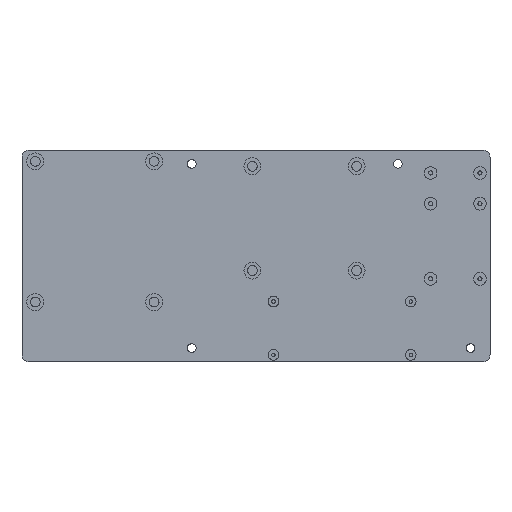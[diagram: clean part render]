
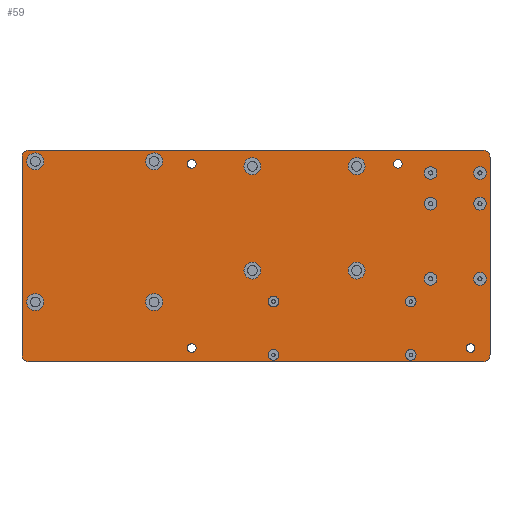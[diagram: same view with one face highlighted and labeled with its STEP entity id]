
A CAD part, top view. The second image highlights one B-rep face of the part: STEP entity #59.
In plain terms, the highlighted planar face has unit normal (0, 0, 1).
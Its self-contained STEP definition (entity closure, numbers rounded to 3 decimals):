
#21 = EDGE_CURVE('',#22,#24,#26,.T.);
#22 = VERTEX_POINT('',#23);
#23 = CARTESIAN_POINT('',(0.,3.,3.2));
#24 = VERTEX_POINT('',#25);
#25 = CARTESIAN_POINT('',(3.,0.,3.2));
#26 = CIRCLE('',#27,3.);
#27 = AXIS2_PLACEMENT_3D('',#28,#29,#30);
#28 = CARTESIAN_POINT('',(3.,3.,3.2));
#29 = DIRECTION('',(0.,0.,1.));
#30 = DIRECTION('',(1.,0.,-0.));
#59 = ADVANCED_FACE('',(#60,#120,#131,#142,#153,#164,#175,#186,#197,#208
    ,#219,#230,#241,#252,#263,#274,#285,#296,#307,#318,#329,#340,#351),
  #362,.T.);
#60 = FACE_BOUND('',#61,.T.);
#61 = EDGE_LOOP('',(#62,#63,#71,#80,#88,#97,#105,#114));
#62 = ORIENTED_EDGE('',*,*,#21,.T.);
#63 = ORIENTED_EDGE('',*,*,#64,.T.);
#64 = EDGE_CURVE('',#24,#65,#67,.T.);
#65 = VERTEX_POINT('',#66);
#66 = CARTESIAN_POINT('',(190.,0.,3.2));
#67 = LINE('',#68,#69);
#68 = CARTESIAN_POINT('',(3.,0.,3.2));
#69 = VECTOR('',#70,1.);
#70 = DIRECTION('',(1.,0.,-0.));
#71 = ORIENTED_EDGE('',*,*,#72,.T.);
#72 = EDGE_CURVE('',#65,#73,#75,.T.);
#73 = VERTEX_POINT('',#74);
#74 = CARTESIAN_POINT('',(193.,3.,3.2));
#75 = CIRCLE('',#76,3.);
#76 = AXIS2_PLACEMENT_3D('',#77,#78,#79);
#77 = CARTESIAN_POINT('',(190.,3.,3.2));
#78 = DIRECTION('',(0.,0.,1.));
#79 = DIRECTION('',(1.,0.,-0.));
#80 = ORIENTED_EDGE('',*,*,#81,.T.);
#81 = EDGE_CURVE('',#73,#82,#84,.T.);
#82 = VERTEX_POINT('',#83);
#83 = CARTESIAN_POINT('',(193.,84.4,3.2));
#84 = LINE('',#85,#86);
#85 = CARTESIAN_POINT('',(193.,3.,3.2));
#86 = VECTOR('',#87,1.);
#87 = DIRECTION('',(-0.,1.,0.));
#88 = ORIENTED_EDGE('',*,*,#89,.T.);
#89 = EDGE_CURVE('',#82,#90,#92,.T.);
#90 = VERTEX_POINT('',#91);
#91 = CARTESIAN_POINT('',(190.,87.4,3.2));
#92 = CIRCLE('',#93,3.);
#93 = AXIS2_PLACEMENT_3D('',#94,#95,#96);
#94 = CARTESIAN_POINT('',(190.,84.4,3.2));
#95 = DIRECTION('',(0.,0.,1.));
#96 = DIRECTION('',(1.,0.,-0.));
#97 = ORIENTED_EDGE('',*,*,#98,.F.);
#98 = EDGE_CURVE('',#99,#90,#101,.T.);
#99 = VERTEX_POINT('',#100);
#100 = CARTESIAN_POINT('',(3.,87.4,3.2));
#101 = LINE('',#102,#103);
#102 = CARTESIAN_POINT('',(3.,87.4,3.2));
#103 = VECTOR('',#104,1.);
#104 = DIRECTION('',(1.,0.,-0.));
#105 = ORIENTED_EDGE('',*,*,#106,.T.);
#106 = EDGE_CURVE('',#99,#107,#109,.T.);
#107 = VERTEX_POINT('',#108);
#108 = CARTESIAN_POINT('',(0.,84.4,3.2));
#109 = CIRCLE('',#110,3.);
#110 = AXIS2_PLACEMENT_3D('',#111,#112,#113);
#111 = CARTESIAN_POINT('',(3.,84.4,3.2));
#112 = DIRECTION('',(0.,0.,1.));
#113 = DIRECTION('',(1.,0.,-0.));
#114 = ORIENTED_EDGE('',*,*,#115,.F.);
#115 = EDGE_CURVE('',#22,#107,#116,.T.);
#116 = LINE('',#117,#118);
#117 = CARTESIAN_POINT('',(0.,3.,3.2));
#118 = VECTOR('',#119,1.);
#119 = DIRECTION('',(-0.,1.,0.));
#120 = FACE_BOUND('',#121,.T.);
#121 = EDGE_LOOP('',(#122));
#122 = ORIENTED_EDGE('',*,*,#123,.F.);
#123 = EDGE_CURVE('',#124,#124,#126,.T.);
#124 = VERTEX_POINT('',#125);
#125 = CARTESIAN_POINT('',(71.8,5.7,3.2));
#126 = CIRCLE('',#127,1.8);
#127 = AXIS2_PLACEMENT_3D('',#128,#129,#130);
#128 = CARTESIAN_POINT('',(70.,5.7,3.2));
#129 = DIRECTION('',(0.,0.,1.));
#130 = DIRECTION('',(1.,0.,-0.));
#131 = FACE_BOUND('',#132,.T.);
#132 = EDGE_LOOP('',(#133));
#133 = ORIENTED_EDGE('',*,*,#134,.F.);
#134 = EDGE_CURVE('',#135,#135,#137,.T.);
#135 = VERTEX_POINT('',#136);
#136 = CARTESIAN_POINT('',(9.,24.7,3.2));
#137 = CIRCLE('',#138,3.5);
#138 = AXIS2_PLACEMENT_3D('',#139,#140,#141);
#139 = CARTESIAN_POINT('',(5.5,24.7,3.2));
#140 = DIRECTION('',(0.,0.,1.));
#141 = DIRECTION('',(1.,0.,-0.));
#142 = FACE_BOUND('',#143,.T.);
#143 = EDGE_LOOP('',(#144));
#144 = ORIENTED_EDGE('',*,*,#145,.F.);
#145 = EDGE_CURVE('',#146,#146,#148,.T.);
#146 = VERTEX_POINT('',#147);
#147 = CARTESIAN_POINT('',(58.,24.7,3.2));
#148 = CIRCLE('',#149,3.5);
#149 = AXIS2_PLACEMENT_3D('',#150,#151,#152);
#150 = CARTESIAN_POINT('',(54.5,24.7,3.2));
#151 = DIRECTION('',(0.,0.,1.));
#152 = DIRECTION('',(1.,0.,-0.));
#153 = FACE_BOUND('',#154,.T.);
#154 = EDGE_LOOP('',(#155));
#155 = ORIENTED_EDGE('',*,*,#156,.F.);
#156 = EDGE_CURVE('',#157,#157,#159,.T.);
#157 = VERTEX_POINT('',#158);
#158 = CARTESIAN_POINT('',(98.5,37.7,3.2));
#159 = CIRCLE('',#160,3.5);
#160 = AXIS2_PLACEMENT_3D('',#161,#162,#163);
#161 = CARTESIAN_POINT('',(95.,37.7,3.2));
#162 = DIRECTION('',(0.,0.,1.));
#163 = DIRECTION('',(1.,0.,-0.));
#164 = FACE_BOUND('',#165,.T.);
#165 = EDGE_LOOP('',(#166));
#166 = ORIENTED_EDGE('',*,*,#167,.F.);
#167 = EDGE_CURVE('',#168,#168,#170,.T.);
#168 = VERTEX_POINT('',#169);
#169 = CARTESIAN_POINT('',(105.9,2.9,3.2));
#170 = CIRCLE('',#171,2.2);
#171 = AXIS2_PLACEMENT_3D('',#172,#173,#174);
#172 = CARTESIAN_POINT('',(103.7,2.9,3.2));
#173 = DIRECTION('',(0.,0.,1.));
#174 = DIRECTION('',(1.,0.,-0.));
#175 = FACE_BOUND('',#176,.T.);
#176 = EDGE_LOOP('',(#177));
#177 = ORIENTED_EDGE('',*,*,#178,.F.);
#178 = EDGE_CURVE('',#179,#179,#181,.T.);
#179 = VERTEX_POINT('',#180);
#180 = CARTESIAN_POINT('',(162.5,2.9,3.2));
#181 = CIRCLE('',#182,2.2);
#182 = AXIS2_PLACEMENT_3D('',#183,#184,#185);
#183 = CARTESIAN_POINT('',(160.3,2.9,3.2));
#184 = DIRECTION('',(0.,0.,1.));
#185 = DIRECTION('',(1.,0.,-0.));
#186 = FACE_BOUND('',#187,.T.);
#187 = EDGE_LOOP('',(#188));
#188 = ORIENTED_EDGE('',*,*,#189,.F.);
#189 = EDGE_CURVE('',#190,#190,#192,.T.);
#190 = VERTEX_POINT('',#191);
#191 = CARTESIAN_POINT('',(186.8,5.7,3.2));
#192 = CIRCLE('',#193,1.8);
#193 = AXIS2_PLACEMENT_3D('',#194,#195,#196);
#194 = CARTESIAN_POINT('',(185.,5.7,3.2));
#195 = DIRECTION('',(0.,0.,1.));
#196 = DIRECTION('',(1.,0.,-0.));
#197 = FACE_BOUND('',#198,.T.);
#198 = EDGE_LOOP('',(#199));
#199 = ORIENTED_EDGE('',*,*,#200,.F.);
#200 = EDGE_CURVE('',#201,#201,#203,.T.);
#201 = VERTEX_POINT('',#202);
#202 = CARTESIAN_POINT('',(105.9,24.9,3.2));
#203 = CIRCLE('',#204,2.2);
#204 = AXIS2_PLACEMENT_3D('',#205,#206,#207);
#205 = CARTESIAN_POINT('',(103.7,24.9,3.2));
#206 = DIRECTION('',(0.,0.,1.));
#207 = DIRECTION('',(1.,0.,-0.));
#208 = FACE_BOUND('',#209,.T.);
#209 = EDGE_LOOP('',(#210));
#210 = ORIENTED_EDGE('',*,*,#211,.F.);
#211 = EDGE_CURVE('',#212,#212,#214,.T.);
#212 = VERTEX_POINT('',#213);
#213 = CARTESIAN_POINT('',(141.5,37.7,3.2));
#214 = CIRCLE('',#215,3.5);
#215 = AXIS2_PLACEMENT_3D('',#216,#217,#218);
#216 = CARTESIAN_POINT('',(138.,37.7,3.2));
#217 = DIRECTION('',(0.,0.,1.));
#218 = DIRECTION('',(1.,0.,-0.));
#219 = FACE_BOUND('',#220,.T.);
#220 = EDGE_LOOP('',(#221));
#221 = ORIENTED_EDGE('',*,*,#222,.F.);
#222 = EDGE_CURVE('',#223,#223,#225,.T.);
#223 = VERTEX_POINT('',#224);
#224 = CARTESIAN_POINT('',(162.5,24.9,3.2));
#225 = CIRCLE('',#226,2.2);
#226 = AXIS2_PLACEMENT_3D('',#227,#228,#229);
#227 = CARTESIAN_POINT('',(160.3,24.9,3.2));
#228 = DIRECTION('',(0.,0.,1.));
#229 = DIRECTION('',(1.,0.,-0.));
#230 = FACE_BOUND('',#231,.T.);
#231 = EDGE_LOOP('',(#232));
#232 = ORIENTED_EDGE('',*,*,#233,.F.);
#233 = EDGE_CURVE('',#234,#234,#236,.T.);
#234 = VERTEX_POINT('',#235);
#235 = CARTESIAN_POINT('',(171.14,34.24,3.2));
#236 = CIRCLE('',#237,2.6);
#237 = AXIS2_PLACEMENT_3D('',#238,#239,#240);
#238 = CARTESIAN_POINT('',(168.54,34.24,3.2));
#239 = DIRECTION('',(0.,0.,1.));
#240 = DIRECTION('',(1.,0.,-0.));
#241 = FACE_BOUND('',#242,.T.);
#242 = EDGE_LOOP('',(#243));
#243 = ORIENTED_EDGE('',*,*,#244,.F.);
#244 = EDGE_CURVE('',#245,#245,#247,.T.);
#245 = VERTEX_POINT('',#246);
#246 = CARTESIAN_POINT('',(191.46,34.24,3.2));
#247 = CIRCLE('',#248,2.6);
#248 = AXIS2_PLACEMENT_3D('',#249,#250,#251);
#249 = CARTESIAN_POINT('',(188.86,34.24,3.2));
#250 = DIRECTION('',(0.,0.,1.));
#251 = DIRECTION('',(1.,0.,-0.));
#252 = FACE_BOUND('',#253,.T.);
#253 = EDGE_LOOP('',(#254));
#254 = ORIENTED_EDGE('',*,*,#255,.F.);
#255 = EDGE_CURVE('',#256,#256,#258,.T.);
#256 = VERTEX_POINT('',#257);
#257 = CARTESIAN_POINT('',(9.,82.7,3.2));
#258 = CIRCLE('',#259,3.5);
#259 = AXIS2_PLACEMENT_3D('',#260,#261,#262);
#260 = CARTESIAN_POINT('',(5.5,82.7,3.2));
#261 = DIRECTION('',(0.,0.,1.));
#262 = DIRECTION('',(1.,0.,-0.));
#263 = FACE_BOUND('',#264,.T.);
#264 = EDGE_LOOP('',(#265));
#265 = ORIENTED_EDGE('',*,*,#266,.F.);
#266 = EDGE_CURVE('',#267,#267,#269,.T.);
#267 = VERTEX_POINT('',#268);
#268 = CARTESIAN_POINT('',(58.,82.7,3.2));
#269 = CIRCLE('',#270,3.5);
#270 = AXIS2_PLACEMENT_3D('',#271,#272,#273);
#271 = CARTESIAN_POINT('',(54.5,82.7,3.2));
#272 = DIRECTION('',(0.,0.,1.));
#273 = DIRECTION('',(1.,0.,-0.));
#274 = FACE_BOUND('',#275,.T.);
#275 = EDGE_LOOP('',(#276));
#276 = ORIENTED_EDGE('',*,*,#277,.F.);
#277 = EDGE_CURVE('',#278,#278,#280,.T.);
#278 = VERTEX_POINT('',#279);
#279 = CARTESIAN_POINT('',(71.8,81.7,3.2));
#280 = CIRCLE('',#281,1.8);
#281 = AXIS2_PLACEMENT_3D('',#282,#283,#284);
#282 = CARTESIAN_POINT('',(70.,81.7,3.2));
#283 = DIRECTION('',(0.,0.,1.));
#284 = DIRECTION('',(1.,0.,-0.));
#285 = FACE_BOUND('',#286,.T.);
#286 = EDGE_LOOP('',(#287));
#287 = ORIENTED_EDGE('',*,*,#288,.F.);
#288 = EDGE_CURVE('',#289,#289,#291,.T.);
#289 = VERTEX_POINT('',#290);
#290 = CARTESIAN_POINT('',(98.5,80.7,3.2));
#291 = CIRCLE('',#292,3.5);
#292 = AXIS2_PLACEMENT_3D('',#293,#294,#295);
#293 = CARTESIAN_POINT('',(95.,80.7,3.2));
#294 = DIRECTION('',(0.,0.,1.));
#295 = DIRECTION('',(1.,0.,-0.));
#296 = FACE_BOUND('',#297,.T.);
#297 = EDGE_LOOP('',(#298));
#298 = ORIENTED_EDGE('',*,*,#299,.F.);
#299 = EDGE_CURVE('',#300,#300,#302,.T.);
#300 = VERTEX_POINT('',#301);
#301 = CARTESIAN_POINT('',(141.5,80.7,3.2));
#302 = CIRCLE('',#303,3.5);
#303 = AXIS2_PLACEMENT_3D('',#304,#305,#306);
#304 = CARTESIAN_POINT('',(138.,80.7,3.2));
#305 = DIRECTION('',(0.,0.,1.));
#306 = DIRECTION('',(1.,0.,-0.));
#307 = FACE_BOUND('',#308,.T.);
#308 = EDGE_LOOP('',(#309));
#309 = ORIENTED_EDGE('',*,*,#310,.F.);
#310 = EDGE_CURVE('',#311,#311,#313,.T.);
#311 = VERTEX_POINT('',#312);
#312 = CARTESIAN_POINT('',(171.14,65.24,3.2));
#313 = CIRCLE('',#314,2.6);
#314 = AXIS2_PLACEMENT_3D('',#315,#316,#317);
#315 = CARTESIAN_POINT('',(168.54,65.24,3.2));
#316 = DIRECTION('',(0.,0.,1.));
#317 = DIRECTION('',(1.,0.,-0.));
#318 = FACE_BOUND('',#319,.T.);
#319 = EDGE_LOOP('',(#320));
#320 = ORIENTED_EDGE('',*,*,#321,.F.);
#321 = EDGE_CURVE('',#322,#322,#324,.T.);
#322 = VERTEX_POINT('',#323);
#323 = CARTESIAN_POINT('',(191.46,65.24,3.2));
#324 = CIRCLE('',#325,2.6);
#325 = AXIS2_PLACEMENT_3D('',#326,#327,#328);
#326 = CARTESIAN_POINT('',(188.86,65.24,3.2));
#327 = DIRECTION('',(0.,0.,1.));
#328 = DIRECTION('',(1.,0.,-0.));
#329 = FACE_BOUND('',#330,.T.);
#330 = EDGE_LOOP('',(#331));
#331 = ORIENTED_EDGE('',*,*,#332,.F.);
#332 = EDGE_CURVE('',#333,#333,#335,.T.);
#333 = VERTEX_POINT('',#334);
#334 = CARTESIAN_POINT('',(156.8,81.7,3.2));
#335 = CIRCLE('',#336,1.8);
#336 = AXIS2_PLACEMENT_3D('',#337,#338,#339);
#337 = CARTESIAN_POINT('',(155.,81.7,3.2));
#338 = DIRECTION('',(0.,0.,1.));
#339 = DIRECTION('',(1.,0.,-0.));
#340 = FACE_BOUND('',#341,.T.);
#341 = EDGE_LOOP('',(#342));
#342 = ORIENTED_EDGE('',*,*,#343,.F.);
#343 = EDGE_CURVE('',#344,#344,#346,.T.);
#344 = VERTEX_POINT('',#345);
#345 = CARTESIAN_POINT('',(171.14,77.94,3.2));
#346 = CIRCLE('',#347,2.6);
#347 = AXIS2_PLACEMENT_3D('',#348,#349,#350);
#348 = CARTESIAN_POINT('',(168.54,77.94,3.2));
#349 = DIRECTION('',(0.,0.,1.));
#350 = DIRECTION('',(1.,0.,-0.));
#351 = FACE_BOUND('',#352,.T.);
#352 = EDGE_LOOP('',(#353));
#353 = ORIENTED_EDGE('',*,*,#354,.F.);
#354 = EDGE_CURVE('',#355,#355,#357,.T.);
#355 = VERTEX_POINT('',#356);
#356 = CARTESIAN_POINT('',(191.46,77.94,3.2));
#357 = CIRCLE('',#358,2.6);
#358 = AXIS2_PLACEMENT_3D('',#359,#360,#361);
#359 = CARTESIAN_POINT('',(188.86,77.94,3.2));
#360 = DIRECTION('',(0.,0.,1.));
#361 = DIRECTION('',(1.,0.,-0.));
#362 = PLANE('',#363);
#363 = AXIS2_PLACEMENT_3D('',#364,#365,#366);
#364 = CARTESIAN_POINT('',(96.5,43.7,3.2));
#365 = DIRECTION('',(0.,0.,1.));
#366 = DIRECTION('',(1.,0.,-0.));
